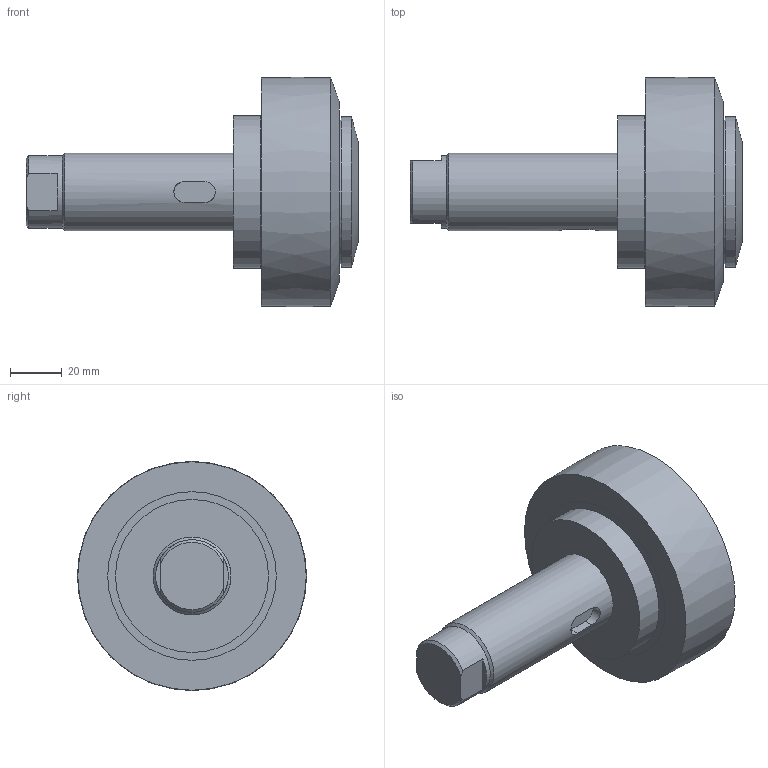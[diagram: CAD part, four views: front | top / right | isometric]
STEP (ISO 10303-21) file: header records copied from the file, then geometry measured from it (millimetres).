
FILE_DESCRIPTION(/* description */ ('-','CAx-IF Rec.Pracs.---Representation and Presentation of Product Manufacturing Information (PMI)---4.0---2014-10-13'),/* implementation_level */ '2;1');
FILE_NAME(/* name */ 'c:\temp\1aa01a9d-d2f0-4411-8165-5dc9fa15d7fc\97e007f0-3e3d-4fc9-b6b1-098a6d58fe99.stp',/* time_stamp */ '2020-05-28T11:39:13+02:00',/* author */ ('-'),/* organization */ ('NTI CADcenter A/S'),/* preprocessor_version */ 'ST-DEVELOPER v18',/* originating_system */ 'Autodesk Inventor 2020',/* authorisation */ '-');
FILE_SCHEMA (('AP242_MANAGED_MODEL_BASED_3D_ENGINEERING_MIM_LF { 1 0 10303 442 1 1 4 }'));
Length unit declared in the file: millimetre
Products named in the file (1): TR 090.1360_Kontur
Bounding box: 128 x 88.4 x 88.39 mm (x, y, z)
Volume: 448514.7 mm3; surface area: 78570.1 mm2
Topology: 7 solids, 7 shells, 50 faces, 105 edges, 76 vertices
Faces by surface type: plane 27, cylinder 15, cone 7, bspline 1
Full cylindrical faces by diameter (mm): 28 x1, 30 x1, 32.9 x1, 50 x1, 55.3 x1, 55.5 x1, 55.8 x1, 58 x1, 59 x1, 61.8 x1, 62.5 x1, 65 x2
Entity records: 1588 total; most frequent: CARTESIAN_POINT 330, DIRECTION 264, ORIENTED_EDGE 210, AXIS2_PLACEMENT_3D 115, EDGE_CURVE 105, VERTEX_POINT 76, CIRCLE 65, EDGE_LOOP 57
